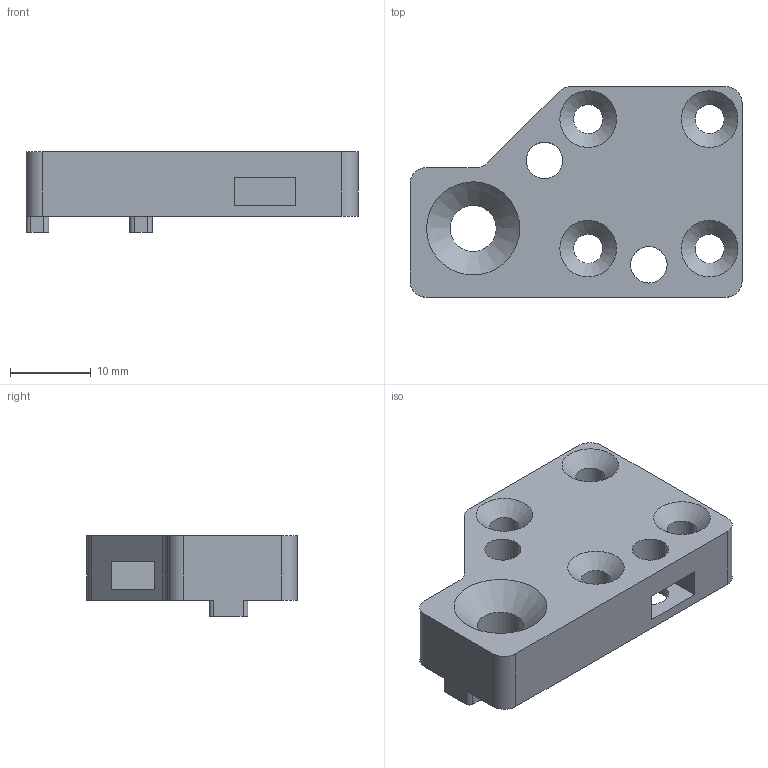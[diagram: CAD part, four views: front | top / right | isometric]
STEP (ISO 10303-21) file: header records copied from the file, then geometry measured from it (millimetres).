
FILE_DESCRIPTION(('Open CASCADE Model'),'2;1');
FILE_NAME('Open CASCADE Shape Model','2026-10-26T02:40:43',('Author'),( 'Open CASCADE'),'Open CASCADE STEP processor 7.9','build123d', 'Unknown');
FILE_SCHEMA(('AUTOMOTIVE_DESIGN { 1 0 10303 214 1 1 1 1 }'));
Length unit declared in the file: millimetre
Products named in the file (1): COMPOUND
Bounding box: 41 x 26 x 10 mm (x, y, z)
Volume: 6127 mm3; surface area: 3595.3 mm2
Topology: 1 solids, 1 shells, 55 faces, 145 edges, 95 vertices
Faces by surface type: plane 27, cylinder 23, cone 5
Full cylindrical faces by diameter (mm): 3.6 x4, 4.5 x4, 5.7 x1
Entity records: 3701 total; most frequent: CARTESIAN_POINT 706, DIRECTION 578, LINE 338, VECTOR 338, ORIENTED_EDGE 290, PCURVE 290, DEFINITIONAL_REPRESENTATION 290, EDGE_CURVE 145
